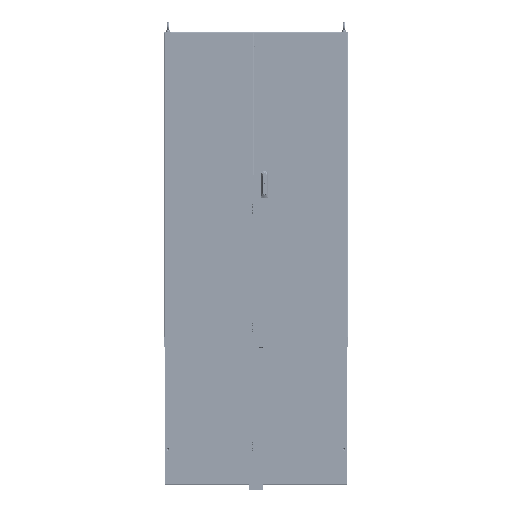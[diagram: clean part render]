
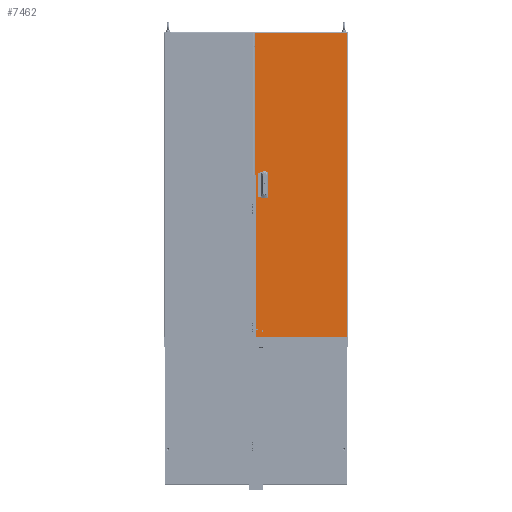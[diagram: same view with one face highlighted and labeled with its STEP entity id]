
A CAD part, front view. The second image highlights one B-rep face of the part: STEP entity #7462.
In plain terms, the highlighted planar face has unit normal (0, -1, 0).
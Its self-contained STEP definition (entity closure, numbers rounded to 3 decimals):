
#7462 = ADVANCED_FACE( '', ( #10776, #10777, #10778, #10779, #10780, #10781 ), #10782, .T. );
#10776 = FACE_BOUND( '', #17377, .T. );
#10777 = FACE_BOUND( '', #17378, .T. );
#10778 = FACE_BOUND( '', #17379, .T. );
#10779 = FACE_OUTER_BOUND( '', #17380, .T. );
#10780 = FACE_BOUND( '', #17381, .T. );
#10781 = FACE_BOUND( '', #17382, .T. );
#10782 = PLANE( '', #17383 );
#17377 = EDGE_LOOP( '', ( #30140, #30141, #30142, #30143 ) );
#17378 = EDGE_LOOP( '', ( #30144 ) );
#17379 = EDGE_LOOP( '', ( #30145, #30146, #30147, #30148 ) );
#17380 = EDGE_LOOP( '', ( #30149, #30150, #30151, #30152 ) );
#17381 = EDGE_LOOP( '', ( #30153, #30154, #30155, #30156 ) );
#17382 = EDGE_LOOP( '', ( #30157 ) );
#17383 = AXIS2_PLACEMENT_3D( '', #30158, #30159, #30160 );
#30140 = ORIENTED_EDGE( '', *, *, #50747, .F. );
#30141 = ORIENTED_EDGE( '', *, *, #50748, .F. );
#30142 = ORIENTED_EDGE( '', *, *, #50749, .F. );
#30143 = ORIENTED_EDGE( '', *, *, #50750, .F. );
#30144 = ORIENTED_EDGE( '', *, *, #50751, .T. );
#30145 = ORIENTED_EDGE( '', *, *, #50752, .F. );
#30146 = ORIENTED_EDGE( '', *, *, #50753, .F. );
#30147 = ORIENTED_EDGE( '', *, *, #50754, .F. );
#30148 = ORIENTED_EDGE( '', *, *, #50755, .F. );
#30149 = ORIENTED_EDGE( '', *, *, #50756, .T. );
#30150 = ORIENTED_EDGE( '', *, *, #50757, .F. );
#30151 = ORIENTED_EDGE( '', *, *, #50758, .F. );
#30152 = ORIENTED_EDGE( '', *, *, #50759, .F. );
#30153 = ORIENTED_EDGE( '', *, *, #50760, .T. );
#30154 = ORIENTED_EDGE( '', *, *, #50761, .T. );
#30155 = ORIENTED_EDGE( '', *, *, #50762, .T. );
#30156 = ORIENTED_EDGE( '', *, *, #50763, .T. );
#30157 = ORIENTED_EDGE( '', *, *, #50764, .T. );
#30158 = CARTESIAN_POINT( '', ( -289.751, 0., -948.531 ) );
#30159 = DIRECTION( '', ( 0., -1., 0. ) );
#30160 = DIRECTION( '', ( 0., 0., -1. ) );
#50747 = EDGE_CURVE( '', #57898, #57899, #57900, .T. );
#50748 = EDGE_CURVE( '', #57901, #57898, #57902, .T. );
#50749 = EDGE_CURVE( '', #57903, #57901, #57904, .T. );
#50750 = EDGE_CURVE( '', #57899, #57903, #57905, .T. );
#50751 = EDGE_CURVE( '', #57906, #57906, #57907, .T. );
#50752 = EDGE_CURVE( '', #57908, #57909, #57910, .T. );
#50753 = EDGE_CURVE( '', #57911, #57908, #57912, .T. );
#50754 = EDGE_CURVE( '', #57913, #57911, #57914, .T. );
#50755 = EDGE_CURVE( '', #57909, #57913, #57915, .T. );
#50756 = EDGE_CURVE( '', #57916, #57917, #57918, .T. );
#50757 = EDGE_CURVE( '', #57919, #57917, #57920, .T. );
#50758 = EDGE_CURVE( '', #57921, #57919, #57922, .T. );
#50759 = EDGE_CURVE( '', #57916, #57921, #57923, .T. );
#50760 = EDGE_CURVE( '', #57924, #57925, #57926, .T. );
#50761 = EDGE_CURVE( '', #57925, #57927, #57928, .T. );
#50762 = EDGE_CURVE( '', #57927, #57929, #57930, .T. );
#50763 = EDGE_CURVE( '', #57929, #57924, #57931, .T. );
#50764 = EDGE_CURVE( '', #57932, #57932, #57933, .T. );
#57898 = VERTEX_POINT( '', #69882 );
#57899 = VERTEX_POINT( '', #69883 );
#57900 = LINE( '', #69884, #69885 );
#57901 = VERTEX_POINT( '', #69886 );
#57902 = LINE( '', #69887, #69888 );
#57903 = VERTEX_POINT( '', #69889 );
#57904 = LINE( '', #69890, #69891 );
#57905 = LINE( '', #69892, #69893 );
#57906 = VERTEX_POINT( '', #69894 );
#57907 = CIRCLE( '', #69895, 4.013 );
#57908 = VERTEX_POINT( '', #69896 );
#57909 = VERTEX_POINT( '', #69897 );
#57910 = LINE( '', #69898, #69899 );
#57911 = VERTEX_POINT( '', #69900 );
#57912 = LINE( '', #69901, #69902 );
#57913 = VERTEX_POINT( '', #69903 );
#57914 = LINE( '', #69904, #69905 );
#57915 = LINE( '', #69906, #69907 );
#57916 = VERTEX_POINT( '', #69908 );
#57917 = VERTEX_POINT( '', #69909 );
#57918 = LINE( '', #69910, #69911 );
#57919 = VERTEX_POINT( '', #69912 );
#57920 = LINE( '', #69913, #69914 );
#57921 = VERTEX_POINT( '', #69915 );
#57922 = LINE( '', #69916, #69917 );
#57923 = LINE( '', #69918, #69919 );
#57924 = VERTEX_POINT( '', #69920 );
#57925 = VERTEX_POINT( '', #69921 );
#57926 = LINE( '', #69922, #69923 );
#57927 = VERTEX_POINT( '', #69924 );
#57928 = LINE( '', #69925, #69926 );
#57929 = VERTEX_POINT( '', #69927 );
#57930 = LINE( '', #69928, #69929 );
#57931 = LINE( '', #69930, #69931 );
#57932 = VERTEX_POINT( '', #69932 );
#57933 = CIRCLE( '', #69933, 4.013 );
#69882 = CARTESIAN_POINT( '', ( -242.233, 0., 75.006 ) );
#69883 = CARTESIAN_POINT( '', ( -242.233, 0., 24.994 ) );
#69884 = CARTESIAN_POINT( '', ( -242.233, 0., 75.006 ) );
#69885 = VECTOR( '', #90391, 1000. );
#69886 = CARTESIAN_POINT( '', ( -217.239, 0., 75.006 ) );
#69887 = CARTESIAN_POINT( '', ( -217.239, 0., 75.006 ) );
#69888 = VECTOR( '', #90392, 1000. );
#69889 = CARTESIAN_POINT( '', ( -217.239, 0., 24.994 ) );
#69890 = CARTESIAN_POINT( '', ( -217.239, 0., 24.994 ) );
#69891 = VECTOR( '', #90393, 1000. );
#69892 = CARTESIAN_POINT( '', ( -242.233, 0., 24.994 ) );
#69893 = VECTOR( '', #90394, 1000. );
#69894 = CARTESIAN_POINT( '', ( -261.714, 0., 35.001 ) );
#69895 = AXIS2_PLACEMENT_3D( '', #90395, #90396, #90397 );
#69896 = CARTESIAN_POINT( '', ( -266.248, 0., 15.875 ) );
#69897 = CARTESIAN_POINT( '', ( -266.248, 0., -15.875 ) );
#69898 = CARTESIAN_POINT( '', ( -266.248, 0., 15.875 ) );
#69899 = VECTOR( '', #90398, 1000. );
#69900 = CARTESIAN_POINT( '', ( -261.244, 0., 15.875 ) );
#69901 = CARTESIAN_POINT( '', ( -261.244, 0., 15.875 ) );
#69902 = VECTOR( '', #90399, 1000. );
#69903 = CARTESIAN_POINT( '', ( -261.244, 0., -15.875 ) );
#69904 = CARTESIAN_POINT( '', ( -261.244, 0., -15.875 ) );
#69905 = VECTOR( '', #90400, 1000. );
#69906 = CARTESIAN_POINT( '', ( -266.248, 0., -15.875 ) );
#69907 = VECTOR( '', #90401, 1000. );
#69908 = CARTESIAN_POINT( '', ( 287.007, 0., 945.788 ) );
#69909 = CARTESIAN_POINT( '', ( -287.007, 0., 945.788 ) );
#69910 = CARTESIAN_POINT( '', ( 287.007, 0., 945.788 ) );
#69911 = VECTOR( '', #90402, 1000. );
#69912 = CARTESIAN_POINT( '', ( -287.007, 0., -945.788 ) );
#69913 = CARTESIAN_POINT( '', ( -287.007, 0., -945.788 ) );
#69914 = VECTOR( '', #90403, 1000. );
#69915 = CARTESIAN_POINT( '', ( 287.007, 0., -945.788 ) );
#69916 = CARTESIAN_POINT( '', ( 287.007, 0., -945.788 ) );
#69917 = VECTOR( '', #90404, 1000. );
#69918 = CARTESIAN_POINT( '', ( 287.007, 0., 945.788 ) );
#69919 = VECTOR( '', #90405, 1000. );
#69920 = CARTESIAN_POINT( '', ( -242.233, 0., -25.019 ) );
#69921 = CARTESIAN_POINT( '', ( -217.239, 0., -25.019 ) );
#69922 = CARTESIAN_POINT( '', ( -242.233, 0., -25.019 ) );
#69923 = VECTOR( '', #90406, 1000. );
#69924 = CARTESIAN_POINT( '', ( -217.239, 0., -75.032 ) );
#69925 = CARTESIAN_POINT( '', ( -217.239, 0., -25.019 ) );
#69926 = VECTOR( '', #90407, 1000. );
#69927 = CARTESIAN_POINT( '', ( -242.233, 0., -75.032 ) );
#69928 = CARTESIAN_POINT( '', ( -217.239, 0., -75.032 ) );
#69929 = VECTOR( '', #90408, 1000. );
#69930 = CARTESIAN_POINT( '', ( -242.233, 0., -75.032 ) );
#69931 = VECTOR( '', #90409, 1000. );
#69932 = CARTESIAN_POINT( '', ( -261.714, 0., -35.001 ) );
#69933 = AXIS2_PLACEMENT_3D( '', #90410, #90411, #90412 );
#90391 = DIRECTION( '', ( 0., 0., -1. ) );
#90392 = DIRECTION( '', ( -1., 0., 0. ) );
#90393 = DIRECTION( '', ( 0., 0., 1. ) );
#90394 = DIRECTION( '', ( 1., 0., 0. ) );
#90395 = CARTESIAN_POINT( '', ( -265.728, 0., 35.001 ) );
#90396 = DIRECTION( '', ( 0., 1., 0. ) );
#90397 = DIRECTION( '', ( 1., 0., 0. ) );
#90398 = DIRECTION( '', ( 0., 0., -1. ) );
#90399 = DIRECTION( '', ( -1., 0., 0. ) );
#90400 = DIRECTION( '', ( 0., 0., 1. ) );
#90401 = DIRECTION( '', ( 1., 0., 0. ) );
#90402 = DIRECTION( '', ( -1., 0., 0. ) );
#90403 = DIRECTION( '', ( 0., 0., 1. ) );
#90404 = DIRECTION( '', ( -1., 0., 0. ) );
#90405 = DIRECTION( '', ( 0., 0., -1. ) );
#90406 = DIRECTION( '', ( 1., 0., 0. ) );
#90407 = DIRECTION( '', ( 0., 0., -1. ) );
#90408 = DIRECTION( '', ( -1., 0., 0. ) );
#90409 = DIRECTION( '', ( 0., 0., 1. ) );
#90410 = CARTESIAN_POINT( '', ( -265.728, 0., -35.001 ) );
#90411 = DIRECTION( '', ( 0., 1., 0. ) );
#90412 = DIRECTION( '', ( 1., 0., 0. ) );
